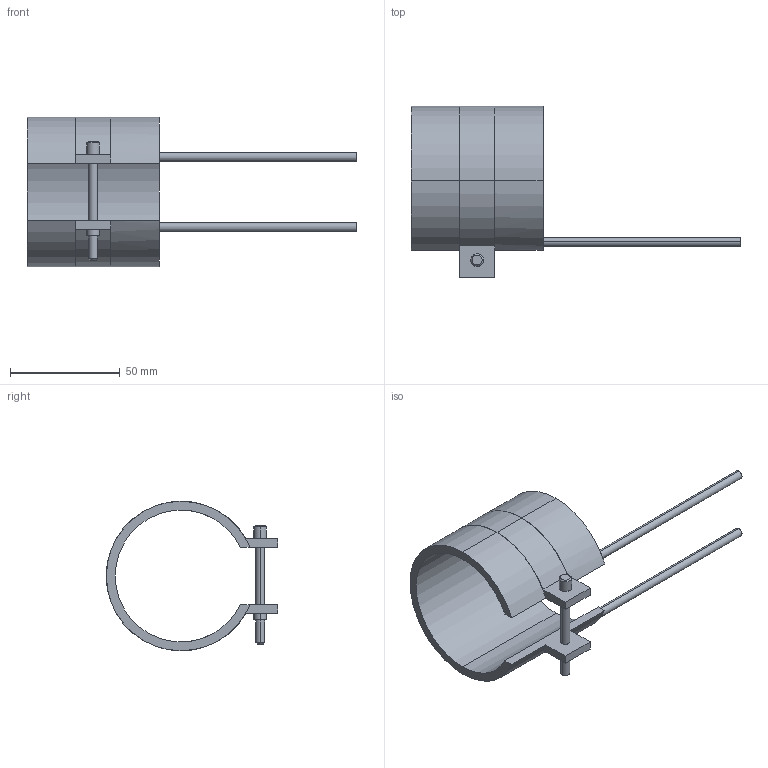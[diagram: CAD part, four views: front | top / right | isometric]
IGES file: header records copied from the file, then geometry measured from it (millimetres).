
Start section: START RECORD GO HERE.
Global section: file name: 14060060.igs; native system: DASSAULT SYSTEMES CATIA V5 R20 - www.3ds.com; preprocessor: CATIA Version 5 Release 20 ; author: Utente; organization: NB04-ASUS; date: 20210403.095957; units: millimetre
Bounding box: 150 x 78.1 x 68.2 mm (x, y, z)
Surface area: 26796.8 mm2 (no closed solid volume)
Topology: 0 solids, 0 shells, 45 faces, 232 edges, 232 vertices
Faces by surface type: revolution 28, plane 17
